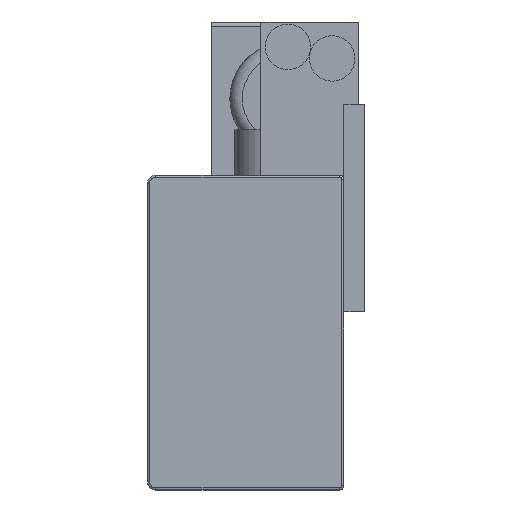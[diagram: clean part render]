
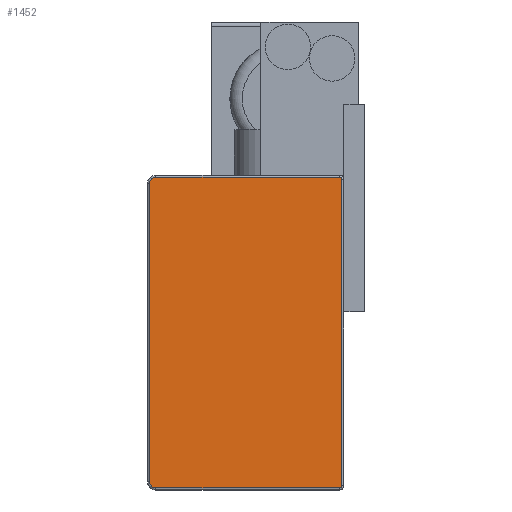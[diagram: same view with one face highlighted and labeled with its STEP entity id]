
A CAD part, left-side view. The second image highlights one B-rep face of the part: STEP entity #1452.
In plain terms, the highlighted planar face has unit normal (-1, 0, 0).
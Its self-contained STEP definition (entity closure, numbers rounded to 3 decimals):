
#46=PLANE('',#1597);
#98=CIRCLE('',#1555,0.5);
#104=CIRCLE('',#1564,0.5);
#123=CIRCLE('',#1598,1.5);
#124=CIRCLE('',#1599,1.5);
#306=ORIENTED_EDGE('',*,*,#619,.T.);
#307=ORIENTED_EDGE('',*,*,#677,.T.);
#308=ORIENTED_EDGE('',*,*,#678,.T.);
#309=ORIENTED_EDGE('',*,*,#679,.T.);
#310=ORIENTED_EDGE('',*,*,#623,.T.);
#311=ORIENTED_EDGE('',*,*,#632,.T.);
#312=ORIENTED_EDGE('',*,*,#627,.T.);
#313=ORIENTED_EDGE('',*,*,#621,.T.);
#619=EDGE_CURVE('',#812,#811,#938,.T.);
#621=EDGE_CURVE('',#813,#812,#98,.T.);
#623=EDGE_CURVE('',#814,#815,#939,.T.);
#627=EDGE_CURVE('',#818,#813,#941,.T.);
#632=EDGE_CURVE('',#815,#818,#104,.T.);
#677=EDGE_CURVE('',#811,#851,#123,.T.);
#678=EDGE_CURVE('',#851,#852,#969,.F.);
#679=EDGE_CURVE('',#852,#814,#124,.T.);
#811=VERTEX_POINT('',#2251);
#812=VERTEX_POINT('',#2253);
#813=VERTEX_POINT('',#2257);
#814=VERTEX_POINT('',#2261);
#815=VERTEX_POINT('',#2262);
#818=VERTEX_POINT('',#2270);
#851=VERTEX_POINT('',#2368);
#852=VERTEX_POINT('',#2370);
#938=LINE('',#2252,#1076);
#939=LINE('',#2260,#1077);
#941=LINE('',#2269,#1079);
#969=LINE('',#2369,#1107);
#1076=VECTOR('',#1794,1000.);
#1077=VECTOR('',#1805,1000.);
#1079=VECTOR('',#1813,1000.);
#1107=VECTOR('',#1917,1000.);
#1217=EDGE_LOOP('',(#306,#307,#308,#309,#310,#311,#312,#313));
#1323=FACE_BOUND('',#1217,.T.);
#1452=ADVANCED_FACE('',(#1323),#46,.T.);
#1555=AXIS2_PLACEMENT_3D('',#2256,#1799,#1800);
#1564=AXIS2_PLACEMENT_3D('',#2277,#1822,#1823);
#1597=AXIS2_PLACEMENT_3D('',#2366,#1913,#1914);
#1598=AXIS2_PLACEMENT_3D('',#2367,#1915,#1916);
#1599=AXIS2_PLACEMENT_3D('',#2371,#1918,#1919);
#1794=DIRECTION('',(0.,1.,0.));
#1799=DIRECTION('',(-1.,0.,0.));
#1800=DIRECTION('',(0.,0.,1.));
#1805=DIRECTION('',(0.,-1.,0.));
#1813=DIRECTION('',(0.,0.,1.));
#1822=DIRECTION('',(-1.,0.,0.));
#1823=DIRECTION('',(0.,0.,1.));
#1913=DIRECTION('',(-1.,0.,0.));
#1914=DIRECTION('',(0.,0.,1.));
#1915=DIRECTION('',(-1.,0.,0.));
#1916=DIRECTION('',(0.,0.,1.));
#1917=DIRECTION('',(0.,0.,1.));
#1918=DIRECTION('',(-1.,0.,0.));
#1919=DIRECTION('',(0.,0.,1.));
#2251=CARTESIAN_POINT('',(-304.8,45.4,37.5));
#2252=CARTESIAN_POINT('',(-304.8,34.,37.5));
#2253=CARTESIAN_POINT('',(-304.8,1.,37.5));
#2256=CARTESIAN_POINT('',(-304.8,1.,37.));
#2257=CARTESIAN_POINT('',(-304.8,0.5,37.));
#2260=CARTESIAN_POINT('',(-304.8,34.,-37.5));
#2261=CARTESIAN_POINT('',(-304.8,45.4,-37.5));
#2262=CARTESIAN_POINT('',(-304.8,1.,-37.5));
#2269=CARTESIAN_POINT('',(-304.8,0.5,38.));
#2270=CARTESIAN_POINT('',(-304.8,0.5,-37.));
#2277=CARTESIAN_POINT('',(-304.8,1.,-37.));
#2366=CARTESIAN_POINT('',(-304.8,34.,38.));
#2367=CARTESIAN_POINT('',(-304.8,45.4,36.));
#2368=CARTESIAN_POINT('',(-304.8,46.9,36.));
#2369=CARTESIAN_POINT('',(-304.8,46.9,38.));
#2370=CARTESIAN_POINT('',(-304.8,46.9,-36.));
#2371=CARTESIAN_POINT('',(-304.8,45.4,-36.));
